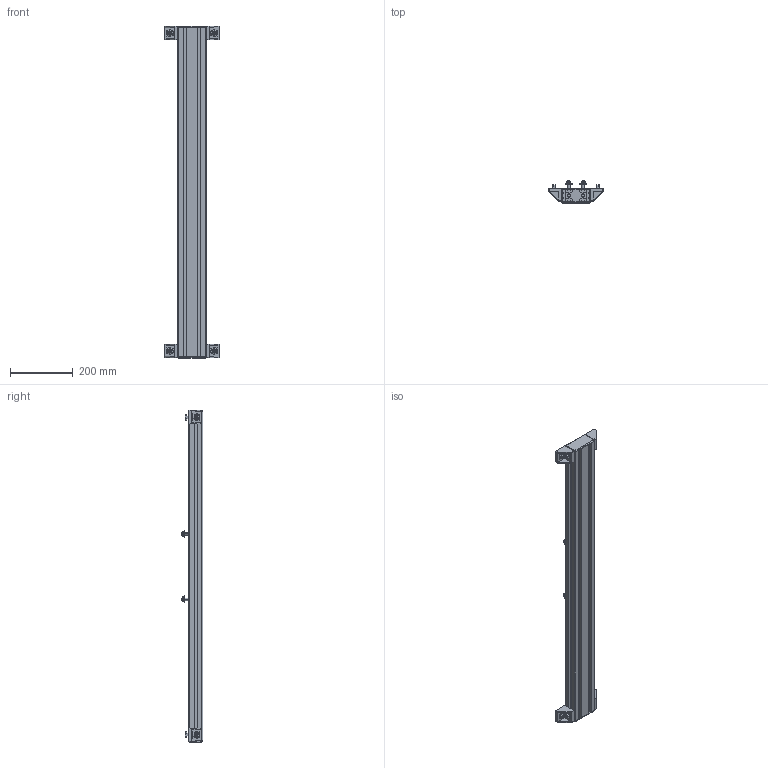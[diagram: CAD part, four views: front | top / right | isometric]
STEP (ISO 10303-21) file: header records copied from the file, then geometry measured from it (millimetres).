
FILE_DESCRIPTION (( 'STEP AP203' ), '1' );
FILE_NAME ('Asutec_75000135.STEP', '2026-02-02T06:48:32', ( '' ), ( '' ), 'SwSTEP 2.0', 'SolidWorks 2020', '' );
FILE_SCHEMA (( 'CONFIG_CONTROL_DESIGN' ));
Length unit declared in the file: millimetre
Products named in the file (1): Asutec_75000135
Bounding box: 172 x 69.3 x 1055 mm (x, y, z)
Volume: 3046196.2 mm3; surface area: 692848.8 mm2
Topology: 7 solids, 7 shells, 742 faces, 1976 edges, 1240 vertices
Faces by surface type: plane 486, cylinder 160, cone 80, bspline 8, sphere 8
Entity records: 24305 total; most frequent: CARTESIAN_POINT 5751, ORIENTED_EDGE 3936, DIRECTION 3742, EDGE_CURVE 1968, LINE 1376, VECTOR 1376, VERTEX_POINT 1240, AXIS2_PLACEMENT_3D 1183
